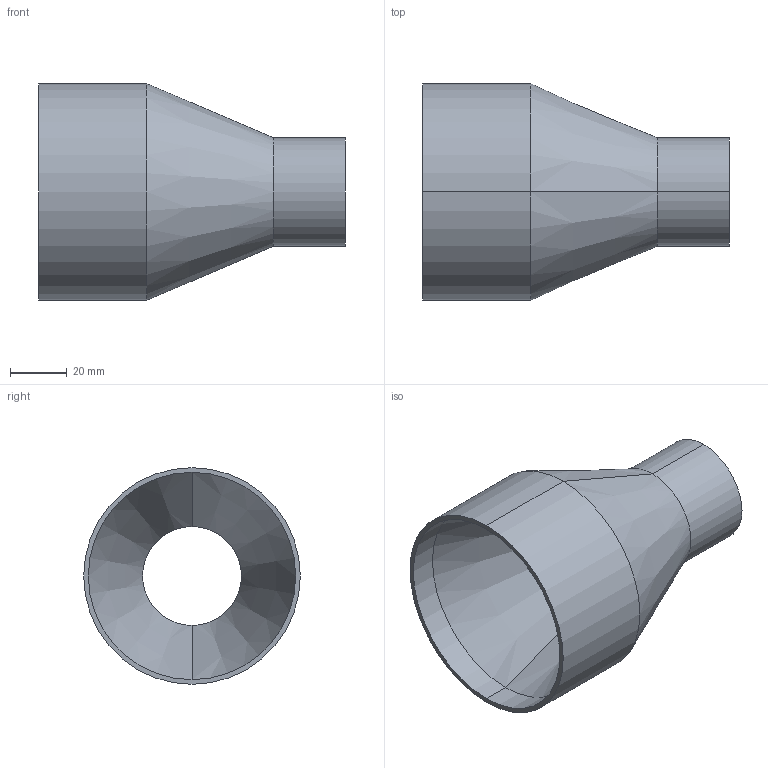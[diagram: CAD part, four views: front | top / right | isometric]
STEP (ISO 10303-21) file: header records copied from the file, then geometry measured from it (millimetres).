
FILE_DESCRIPTION (( 'STEP AP214' ), '1' );
FILE_NAME ('TE31SWW6L3.0x1.5-...STEP', '2016-05-29T09:57:36', ( 'eran' ), ( '' ), 'SwSTEP 2.0', 'SolidWorks 2016', '' );
FILE_SCHEMA (( 'AUTOMOTIVE_DESIGN' ));
Length unit declared in the file: millimetre
Products named in the file (1): TE31SWW6L3.0x1.5-..
Bounding box: 107.95 x 76.2 x 76.2 mm (x, y, z)
Volume: 118751.3 mm3; surface area: 37870.3 mm2
Topology: 1 solids, 1 shells, 14 faces, 28 edges, 16 vertices
Faces by surface type: cylinder 8, cone 4, plane 2
Entity records: 402 total; most frequent: DIRECTION 74, CARTESIAN_POINT 59, ORIENTED_EDGE 56, AXIS2_PLACEMENT_3D 31, EDGE_CURVE 28, CIRCLE 16, EDGE_LOOP 16, VERTEX_POINT 16
